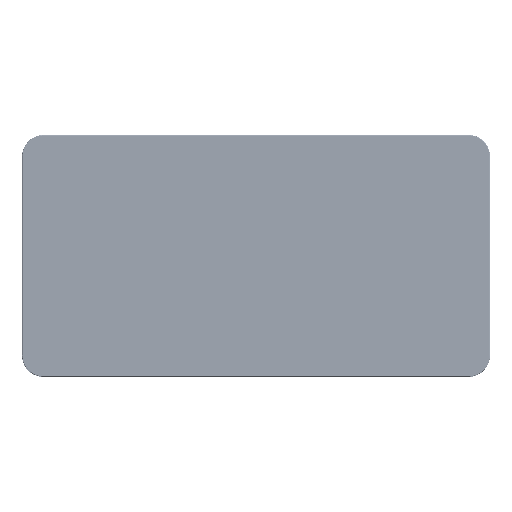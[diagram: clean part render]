
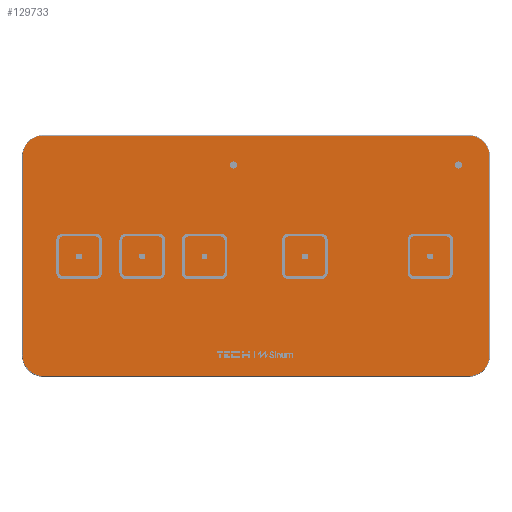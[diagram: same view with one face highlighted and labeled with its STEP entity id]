
A CAD part, top view. The second image highlights one B-rep face of the part: STEP entity #129733.
In plain terms, the highlighted planar face has unit normal (0, 0, 1) as drawn and (0, 1, 0) by its records, which use the part's own axes.
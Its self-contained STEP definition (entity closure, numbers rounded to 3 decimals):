
#11470=B_SPLINE_CURVE_WITH_KNOTS('',3,(#201637,#201638,#201639,#201640,
#201641,#201642),.UNSPECIFIED.,.F.,.F.,(4,1,1,4),(0.,0.327,
0.653,1.143),.UNSPECIFIED.);
#11471=B_SPLINE_CURVE_WITH_KNOTS('',3,(#201679,#201680,#201681,#201682,
#201683,#201684),.UNSPECIFIED.,.F.,.F.,(4,1,1,4),(0.,0.49,
0.817,1.143),.UNSPECIFIED.);
#11472=B_SPLINE_CURVE_WITH_KNOTS('',3,(#201721,#201722,#201723,#201724,
#201725,#201726),.UNSPECIFIED.,.F.,.F.,(4,1,1,4),(0.,0.327,
0.653,1.143),.UNSPECIFIED.);
#11474=B_SPLINE_CURVE_WITH_KNOTS('',3,(#201769,#201770,#201771,#201772,
#201773,#201774),.UNSPECIFIED.,.F.,.F.,(4,1,1,4),(0.,0.327,
0.653,1.143),.UNSPECIFIED.);
#13237=PLANE('',#137893);
#16973=FACE_OUTER_BOUND('',#24643,.T.);
#24643=EDGE_LOOP('',(#96965,#96966,#96967,#96968,#96969,#96970,#96971,#96972));
#34726=LINE('',#201595,#46167);
#34728=LINE('',#201646,#46169);
#34729=LINE('',#201688,#46170);
#34731=LINE('',#201732,#46172);
#46167=VECTOR('',#153827,69.795);
#46169=VECTOR('',#153837,149.134);
#46170=VECTOR('',#153844,69.795);
#46172=VECTOR('',#153852,149.134);
#59189=VERTEX_POINT('',#201592);
#59190=VERTEX_POINT('',#201594);
#59192=VERTEX_POINT('',#201629);
#59193=VERTEX_POINT('',#201644);
#59194=VERTEX_POINT('',#201677);
#59195=VERTEX_POINT('',#201686);
#59196=VERTEX_POINT('',#201719);
#59197=VERTEX_POINT('',#201728);
#73907=EDGE_CURVE('',#59189,#59190,#34726,.T.);
#73912=EDGE_CURVE('',#59190,#59192,#11470,.T.);
#73914=EDGE_CURVE('',#59192,#59193,#34728,.T.);
#73916=EDGE_CURVE('',#59193,#59194,#11471,.T.);
#73918=EDGE_CURVE('',#59194,#59195,#34729,.T.);
#73920=EDGE_CURVE('',#59195,#59196,#11472,.T.);
#73923=EDGE_CURVE('',#59196,#59197,#34731,.T.);
#73925=EDGE_CURVE('',#59197,#59189,#11474,.T.);
#96965=ORIENTED_EDGE('',*,*,#73907,.F.);
#96966=ORIENTED_EDGE('',*,*,#73925,.F.);
#96967=ORIENTED_EDGE('',*,*,#73923,.F.);
#96968=ORIENTED_EDGE('',*,*,#73920,.F.);
#96969=ORIENTED_EDGE('',*,*,#73918,.F.);
#96970=ORIENTED_EDGE('',*,*,#73916,.F.);
#96971=ORIENTED_EDGE('',*,*,#73914,.F.);
#96972=ORIENTED_EDGE('',*,*,#73912,.F.);
#129733=ADVANCED_FACE('',(#16973),#13237,.T.);
#137893=AXIS2_PLACEMENT_3D('',#201802,#153860,#153861);
#153827=DIRECTION('',(-1.,0.,0.));
#153837=DIRECTION('',(0.,0.,-1.));
#153844=DIRECTION('',(1.,0.,0.));
#153852=DIRECTION('',(0.,0.,1.));
#153860=DIRECTION('center_axis',(0.,1.,0.));
#153861=DIRECTION('ref_axis',(0.,0.,1.));
#201592=CARTESIAN_POINT('',(0.328,2.8,160.402));
#201594=CARTESIAN_POINT('',(-69.467,2.8,160.402));
#201595=CARTESIAN_POINT('',(0.328,2.8,160.402));
#201629=CARTESIAN_POINT('',(-76.744,2.8,153.125));
#201637=CARTESIAN_POINT('Ctrl Pts',(-69.467,2.8,160.402));
#201638=CARTESIAN_POINT('Ctrl Pts',(-70.556,2.8,160.402));
#201639=CARTESIAN_POINT('Ctrl Pts',(-72.73,2.8,159.907));
#201640=CARTESIAN_POINT('Ctrl Pts',(-75.793,2.8,157.473));
#201641=CARTESIAN_POINT('Ctrl Pts',(-76.744,2.8,154.759));
#201642=CARTESIAN_POINT('Ctrl Pts',(-76.744,2.8,153.125));
#201644=CARTESIAN_POINT('',(-76.744,2.8,3.991));
#201646=CARTESIAN_POINT('',(-76.744,2.8,153.125));
#201677=CARTESIAN_POINT('',(-69.467,2.8,-3.286));
#201679=CARTESIAN_POINT('Ctrl Pts',(-76.744,2.8,3.991));
#201680=CARTESIAN_POINT('Ctrl Pts',(-76.744,2.8,2.358));
#201681=CARTESIAN_POINT('Ctrl Pts',(-75.794,2.8,-0.356));
#201682=CARTESIAN_POINT('Ctrl Pts',(-72.73,2.8,-2.791));
#201683=CARTESIAN_POINT('Ctrl Pts',(-70.556,2.8,-3.286));
#201684=CARTESIAN_POINT('Ctrl Pts',(-69.467,2.8,-3.286));
#201686=CARTESIAN_POINT('',(0.328,2.8,-3.286));
#201688=CARTESIAN_POINT('',(-69.467,2.8,-3.286));
#201719=CARTESIAN_POINT('',(7.605,2.8,3.991));
#201721=CARTESIAN_POINT('Ctrl Pts',(0.328,2.8,-3.286));
#201722=CARTESIAN_POINT('Ctrl Pts',(1.417,2.8,-3.286));
#201723=CARTESIAN_POINT('Ctrl Pts',(3.592,2.8,-2.791));
#201724=CARTESIAN_POINT('Ctrl Pts',(6.657,2.8,-0.357));
#201725=CARTESIAN_POINT('Ctrl Pts',(7.605,2.8,2.358));
#201726=CARTESIAN_POINT('Ctrl Pts',(7.605,2.8,3.991));
#201728=CARTESIAN_POINT('',(7.605,2.8,153.125));
#201732=CARTESIAN_POINT('',(7.605,2.8,3.991));
#201769=CARTESIAN_POINT('Ctrl Pts',(7.605,2.8,153.125));
#201770=CARTESIAN_POINT('Ctrl Pts',(7.605,2.8,154.214));
#201771=CARTESIAN_POINT('Ctrl Pts',(7.11,2.8,156.389));
#201772=CARTESIAN_POINT('Ctrl Pts',(4.676,2.8,159.452));
#201773=CARTESIAN_POINT('Ctrl Pts',(1.962,2.8,160.402));
#201774=CARTESIAN_POINT('Ctrl Pts',(0.328,2.8,160.402));
#201802=CARTESIAN_POINT('Origin',(-34.6,2.8,78.589));
